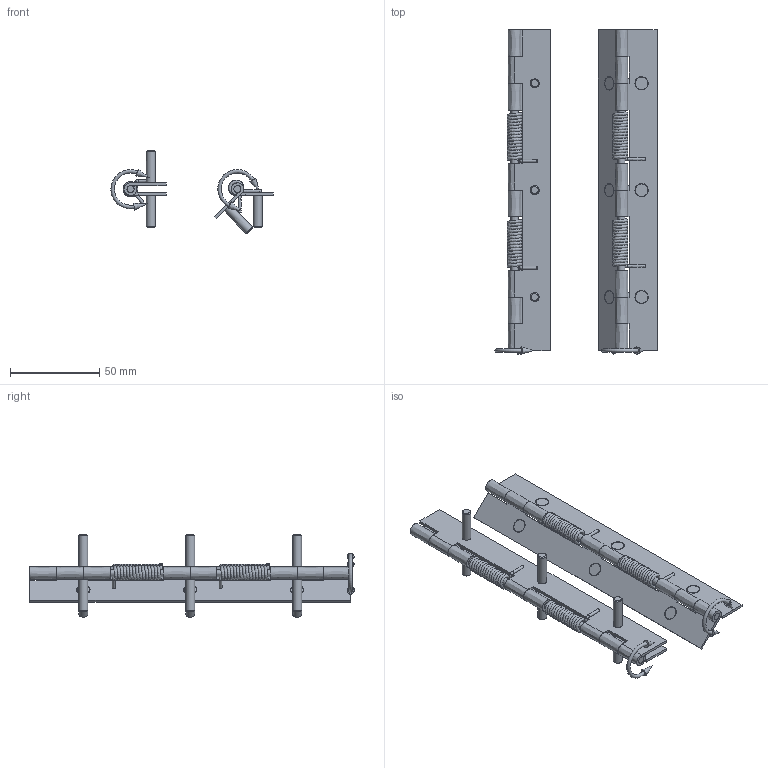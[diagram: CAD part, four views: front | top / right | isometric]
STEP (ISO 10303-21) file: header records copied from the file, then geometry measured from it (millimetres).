
FILE_DESCRIPTION(/* description */ ('Unknown'),/* implementation_level */ '2;1');
FILE_NAME(/* name */ '6165.03-04stp',/* time_stamp */ '2023-10-11T13:33:54+02:00',/* author */ ('Unknown'),/* organization */ ('Unknown'),/* preprocessor_version */ 'ST-DEVELOPER v16.7',/* originating_system */ 'DEX',/* authorisation */ $);
FILE_SCHEMA (('AUTOMOTIVE_DESIGN {1 0 10303 214 3 1 1}'));
Length unit declared in the file: millimetre
Products named in the file (12): 6165-B; ~TEIL4; ~DREHFEDERN - 1.600000 X 8.400000 X 15.000000; TEIL1; TEIL2; TEIL3; TEIL4; TEIL5; TEIL6; TEIL7; M5x18
Assembly tree (24 placements, depth 2):
  6165-B
    ~TEIL4  x2
    ~DREHFEDERN - 1.600000 X 8.400000 X 15.000000  x2
    TEIL1
    TEIL2
    TEIL3
    TEIL4
    TEIL5
    TEIL6
    TEIL7
    6165-B
    M5x18  x12
Bounding box: 91 x 182 x 46.25 mm (x, y, z)
Volume: 35929.9 mm3; surface area: 51926.4 mm2
Topology: 24 solids, 24 shells, 232 faces, 550 edges, 366 vertices
Faces by surface type: plane 120, bspline 60, cone 28, cylinder 18, torus 6
Full cylindrical faces by diameter (mm): 1.6 x6, 5 x12
Entity records: 28489 total; most frequent: CARTESIAN_POINT 24295, ORIENTED_EDGE 760, DIRECTION 732, EDGE_CURVE 380, VERTEX_POINT 278, LINE 248, VECTOR 248, AXIS2_PLACEMENT_3D 242
